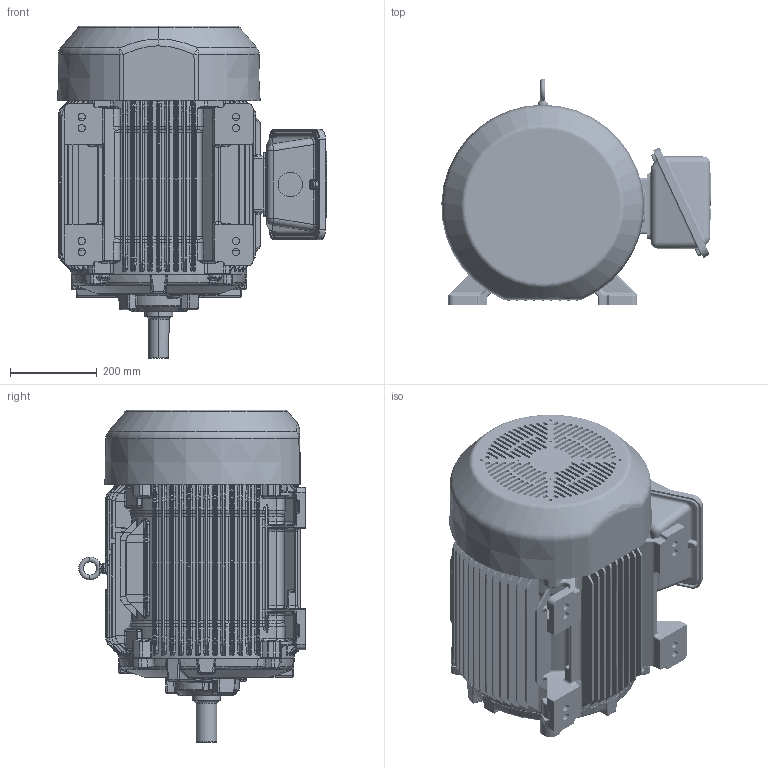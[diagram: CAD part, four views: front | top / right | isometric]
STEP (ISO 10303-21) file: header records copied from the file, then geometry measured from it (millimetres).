
FILE_DESCRIPTION((''),'2;1');
FILE_NAME('360_3D_ASM_ASM','2018-10-23T15:41:28',('emd2341'),('Nidec Motor Corporation'),'CREO PARAMETRIC BY PTC INC, 2018020','CREO PARAMETRIC BY PTC INC, 2018020','');
FILE_SCHEMA(('CONFIG_CONTROL_DESIGN'));
Length unit declared in the file: inch
Products named in the file (10): 360_FOOTED_FRAME; 360_DE_BRKT; 360_TS; 0133166; 360_STL_FCVR; 320_CAST_GSK_OBB; 320_OBB_NEMA; 320_CAST_GSK_OBC; 320_CAST_OBC; 360_3D_ASM_ASM
Assembly tree (9 placements, depth 2):
  360_3D_ASM_ASM
    360_FOOTED_FRAME
    360_DE_BRKT
    360_TS
    0133166
    360_STL_FCVR
    320_CAST_GSK_OBB
    320_OBB_NEMA
    320_CAST_GSK_OBC
    320_CAST_OBC
Bounding box: 621.21 x 523.37 x 766.06 mm (x, y, z)
Volume: 98335086.2 mm3; surface area: 3386935.2 mm2
Topology: 9 solids, 10 shells, 5375 faces, 12319 edges, 7079 vertices
Faces by surface type: bspline 2215, cylinder 1131, plane 1113, extrusion 412, torus 361, sphere 90, cone 53
Entity records: 246120 total; most frequent: CARTESIAN_POINT 140394, ORIENTED_EDGE 24634, DIRECTION 17601, EDGE_CURVE 12319, VERTEX_POINT 7079, AXIS2_PLACEMENT_3D 6549, EDGE_LOOP 5516, FACE_OUTER_BOUND 5375
